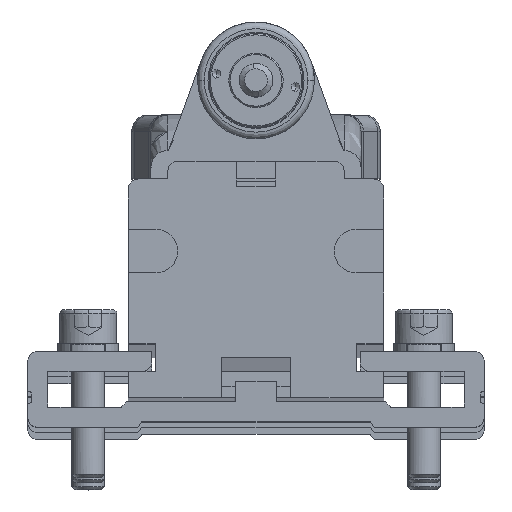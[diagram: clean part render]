
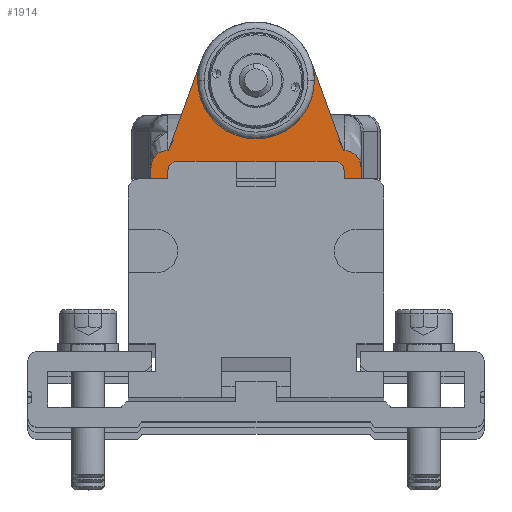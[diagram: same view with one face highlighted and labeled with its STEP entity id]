
A CAD part, top view. The second image highlights one B-rep face of the part: STEP entity #1914.
In plain terms, the highlighted planar face has unit normal (0, 0, 1).
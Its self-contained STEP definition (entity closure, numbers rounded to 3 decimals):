
#1914=ADVANCED_FACE('',(#4057),#4058,.T.);
#4057=FACE_OUTER_BOUND('',#6392,.T.);
#4058=PLANE('',#6393);
#6392=EDGE_LOOP('',(#14091,#14092,#14093,#14094,#14095,#14096,#14097,#14098,#14099,#14100,#14101,#14102,#14103,#14104,#14105,#14106,#14107,#14108,#14109,#14110,#14111,#14112));
#6393=AXIS2_PLACEMENT_3D('',#14113,#14114,#14115);
#14091=ORIENTED_EDGE('',*,*,#18079,.T.);
#14092=ORIENTED_EDGE('',*,*,#18080,.T.);
#14093=ORIENTED_EDGE('',*,*,#18081,.T.);
#14094=ORIENTED_EDGE('',*,*,#18082,.T.);
#14095=ORIENTED_EDGE('',*,*,#18083,.T.);
#14096=ORIENTED_EDGE('',*,*,#18084,.T.);
#14097=ORIENTED_EDGE('',*,*,#18085,.T.);
#14098=ORIENTED_EDGE('',*,*,#18086,.F.);
#14099=ORIENTED_EDGE('',*,*,#18087,.T.);
#14100=ORIENTED_EDGE('',*,*,#18088,.T.);
#14101=ORIENTED_EDGE('',*,*,#18089,.F.);
#14102=ORIENTED_EDGE('',*,*,#18090,.F.);
#14103=ORIENTED_EDGE('',*,*,#15878,.F.);
#14104=ORIENTED_EDGE('',*,*,#18091,.F.);
#14105=ORIENTED_EDGE('',*,*,#15891,.F.);
#14106=ORIENTED_EDGE('',*,*,#18092,.F.);
#14107=ORIENTED_EDGE('',*,*,#18093,.F.);
#14108=ORIENTED_EDGE('',*,*,#18094,.T.);
#14109=ORIENTED_EDGE('',*,*,#18095,.T.);
#14110=ORIENTED_EDGE('',*,*,#18096,.F.);
#14111=ORIENTED_EDGE('',*,*,#18097,.T.);
#14112=ORIENTED_EDGE('',*,*,#18098,.T.);
#14113=CARTESIAN_POINT('',(8.5,32.7,217.0));
#14114=DIRECTION('',(0.0,0.0,1.0));
#14115=DIRECTION('',(1.0,-0.0,0.0));
#15878=EDGE_CURVE('',#18757,#18760,#18761,.T.);
#15891=EDGE_CURVE('',#18784,#18786,#18787,.T.);
#18079=EDGE_CURVE('',#22052,#22053,#22054,.T.);
#18080=EDGE_CURVE('',#22053,#22055,#22056,.T.);
#18081=EDGE_CURVE('',#22055,#22057,#22058,.T.);
#18082=EDGE_CURVE('',#22057,#22059,#22060,.T.);
#18083=EDGE_CURVE('',#22059,#22061,#22062,.T.);
#18084=EDGE_CURVE('',#22061,#22063,#22064,.T.);
#18085=EDGE_CURVE('',#22063,#22065,#22066,.T.);
#18086=EDGE_CURVE('',#22067,#22065,#22068,.T.);
#18087=EDGE_CURVE('',#22067,#22069,#22070,.T.);
#18088=EDGE_CURVE('',#22069,#22071,#22072,.T.);
#18089=EDGE_CURVE('',#22073,#22071,#22074,.T.);
#18090=EDGE_CURVE('',#18760,#22073,#22075,.T.);
#18091=EDGE_CURVE('',#18786,#18757,#22076,.T.);
#18092=EDGE_CURVE('',#22077,#18784,#22078,.T.);
#18093=EDGE_CURVE('',#22079,#22077,#22080,.T.);
#18094=EDGE_CURVE('',#22079,#22081,#22082,.T.);
#18095=EDGE_CURVE('',#22081,#22083,#22084,.T.);
#18096=EDGE_CURVE('',#22085,#22083,#22086,.T.);
#18097=EDGE_CURVE('',#22085,#22087,#22088,.T.);
#18098=EDGE_CURVE('',#22087,#22052,#22089,.T.);
#18757=VERTEX_POINT('',#23002);
#18760=VERTEX_POINT('',#23006);
#18761=CIRCLE('',#23007,8.7);
#18784=VERTEX_POINT('',#23057);
#18786=VERTEX_POINT('',#23059);
#18787=CIRCLE('',#23060,8.7);
#22052=VERTEX_POINT('',#27741);
#22053=VERTEX_POINT('',#27742);
#22054=LINE('',#27743,#27744);
#22055=VERTEX_POINT('',#27745);
#22056=CIRCLE('',#27746,1.5);
#22057=VERTEX_POINT('',#27747);
#22058=LINE('',#27748,#27749);
#22059=VERTEX_POINT('',#27750);
#22060=CIRCLE('',#27751,1.5);
#22061=VERTEX_POINT('',#27752);
#22062=LINE('',#27753,#27754);
#22063=VERTEX_POINT('',#27755);
#22064=LINE('',#27756,#27757);
#22065=VERTEX_POINT('',#27758);
#22066=LINE('',#27759,#27760);
#22067=VERTEX_POINT('',#27761);
#22068=LINE('',#27762,#27763);
#22069=VERTEX_POINT('',#27764);
#22070=LINE('',#27765,#27766);
#22071=VERTEX_POINT('',#27767);
#22072=B_SPLINE_CURVE_WITH_KNOTS('',3,(#27768,#27769,#27770,#27771,#27772,#27773,#27774,#27775,#27776,#27777),.UNSPECIFIED.,.F.,.F.,(4,2,2,2,4),(1.12,1.22,1.315,1.406,1.492),.UNSPECIFIED.);
#22073=VERTEX_POINT('',#27778);
#22074=LINE('',#27779,#27780);
#22075=LINE('',#27781,#27782);
#22076=CIRCLE('',#27783,8.7);
#22077=VERTEX_POINT('',#27784);
#22078=LINE('',#27785,#27786);
#22079=VERTEX_POINT('',#27787);
#22080=LINE('',#27788,#27789);
#22081=VERTEX_POINT('',#27790);
#22082=B_SPLINE_CURVE_WITH_KNOTS('',3,(#27791,#27792,#27793,#27794,#27795,#27796,#27797,#27798,#27799,#27800),.UNSPECIFIED.,.F.,.F.,(4,2,2,2,4),(0.0,0.086,0.177,0.272,0.372),.UNSPECIFIED.);
#22083=VERTEX_POINT('',#27801);
#22084=LINE('',#27802,#27803);
#22085=VERTEX_POINT('',#27804);
#22086=LINE('',#27805,#27806);
#22087=VERTEX_POINT('',#27807);
#22088=LINE('',#27808,#27809);
#22089=LINE('',#27810,#27811);
#23002=CARTESIAN_POINT('',(27.7,47.3,217.0));
#23006=CARTESIAN_POINT('',(27.177,50.272,217.0));
#23007=AXIS2_PLACEMENT_3D('',#29525,#29526,#29527);
#23057=CARTESIAN_POINT('',(10.823,50.272,217.0));
#23059=CARTESIAN_POINT('',(10.3,47.3,217.0));
#23060=AXIS2_PLACEMENT_3D('',#29546,#29547,#29548);
#27741=CARTESIAN_POINT('',(5.85,32.7,217.0));
#27742=CARTESIAN_POINT('',(5.85,33.7,217.0));
#27743=CARTESIAN_POINT('',(5.85,32.7,217.0));
#27744=VECTOR('',#32306,1.0);
#27745=CARTESIAN_POINT('',(7.35,35.2,217.0));
#27746=AXIS2_PLACEMENT_3D('',#32307,#32308,#32309);
#27747=CARTESIAN_POINT('',(30.65,35.2,217.0));
#27748=CARTESIAN_POINT('',(7.35,35.2,217.0));
#27749=VECTOR('',#32310,23.3);
#27750=CARTESIAN_POINT('',(32.15,33.7,217.0));
#27751=AXIS2_PLACEMENT_3D('',#32311,#32312,#32313);
#27752=CARTESIAN_POINT('',(32.15,32.7,217.0));
#27753=CARTESIAN_POINT('',(32.15,33.7,217.0));
#27754=VECTOR('',#32314,1.0);
#27755=CARTESIAN_POINT('',(32.65,32.7,217.0));
#27756=CARTESIAN_POINT('',(32.15,32.7,217.0));
#27757=VECTOR('',#32315,0.5);
#27758=CARTESIAN_POINT('',(32.65,31.7,217.0));
#27759=CARTESIAN_POINT('',(32.65,32.7,217.0));
#27760=VECTOR('',#32316,1.0);
#27761=CARTESIAN_POINT('',(34.65,31.7,217.0));
#27762=CARTESIAN_POINT('',(34.65,31.7,217.0));
#27763=VECTOR('',#32317,2.0);
#27764=CARTESIAN_POINT('',(34.65,34.236,217.0));
#27765=CARTESIAN_POINT('',(34.65,31.7,217.0));
#27766=VECTOR('',#32318,2.536);
#27767=CARTESIAN_POINT('',(32.25,36.86,217.0));
#27768=CARTESIAN_POINT('',(34.65,34.236,217.0));
#27769=CARTESIAN_POINT('',(34.65,34.57,217.0));
#27770=CARTESIAN_POINT('',(34.577,34.965,217.0));
#27771=CARTESIAN_POINT('',(34.338,35.572,217.0));
#27772=CARTESIAN_POINT('',(34.136,35.895,217.0));
#27773=CARTESIAN_POINT('',(33.71,36.344,217.0));
#27774=CARTESIAN_POINT('',(33.416,36.554,217.0));
#27775=CARTESIAN_POINT('',(32.876,36.789,217.0));
#27776=CARTESIAN_POINT('',(32.538,36.86,217.0));
#27777=CARTESIAN_POINT('',(32.25,36.86,217.0));
#27778=CARTESIAN_POINT('',(32.052,36.86,217.0));
#27779=CARTESIAN_POINT('',(32.052,36.86,217.0));
#27780=VECTOR('',#32319,0.198);
#27781=CARTESIAN_POINT('',(27.177,50.272,217.0));
#27782=VECTOR('',#32320,14.271);
#27783=AXIS2_PLACEMENT_3D('',#32321,#32322,#32323);
#27784=CARTESIAN_POINT('',(5.948,36.86,217.0));
#27785=CARTESIAN_POINT('',(5.948,36.86,217.0));
#27786=VECTOR('',#32324,14.27);
#27787=CARTESIAN_POINT('',(5.75,36.86,217.0));
#27788=CARTESIAN_POINT('',(5.75,36.86,217.0));
#27789=VECTOR('',#32325,0.198);
#27790=CARTESIAN_POINT('',(3.35,34.236,217.0));
#27791=CARTESIAN_POINT('',(5.75,36.86,217.0));
#27792=CARTESIAN_POINT('',(5.462,36.86,217.0));
#27793=CARTESIAN_POINT('',(5.124,36.789,217.0));
#27794=CARTESIAN_POINT('',(4.584,36.554,217.0));
#27795=CARTESIAN_POINT('',(4.29,36.344,217.0));
#27796=CARTESIAN_POINT('',(3.864,35.895,217.0));
#27797=CARTESIAN_POINT('',(3.662,35.572,217.0));
#27798=CARTESIAN_POINT('',(3.423,34.965,217.0));
#27799=CARTESIAN_POINT('',(3.35,34.57,217.0));
#27800=CARTESIAN_POINT('',(3.35,34.236,217.0));
#27801=CARTESIAN_POINT('',(3.35,31.7,217.0));
#27802=CARTESIAN_POINT('',(3.35,34.236,217.0));
#27803=VECTOR('',#32326,2.536);
#27804=CARTESIAN_POINT('',(5.35,31.7,217.0));
#27805=CARTESIAN_POINT('',(5.35,31.7,217.0));
#27806=VECTOR('',#32327,2.0);
#27807=CARTESIAN_POINT('',(5.35,32.7,217.0));
#27808=CARTESIAN_POINT('',(5.35,31.7,217.0));
#27809=VECTOR('',#32328,1.0);
#27810=CARTESIAN_POINT('',(5.35,32.7,217.0));
#27811=VECTOR('',#32329,0.5);
#29525=CARTESIAN_POINT('',(19.,47.3,217.0));
#29526=DIRECTION('',(0.,0.,1.0));
#29527=DIRECTION('',(0.94,0.342,0.));
#29546=CARTESIAN_POINT('',(19.,47.3,217.0));
#29547=DIRECTION('',(0.,0.,1.0));
#29548=DIRECTION('',(0.94,0.342,0.));
#32306=DIRECTION('',(0.0,1.0,0.0));
#32307=CARTESIAN_POINT('',(7.35,33.7,217.0));
#32308=DIRECTION('',(0.0,0.0,-1.0));
#32309=DIRECTION('',(-1.0,0.0,0.0));
#32310=DIRECTION('',(1.0,0.0,0.0));
#32311=CARTESIAN_POINT('',(30.65,33.7,217.0));
#32312=DIRECTION('',(0.0,0.0,-1.0));
#32313=DIRECTION('',(1.0,0.0,0.0));
#32314=DIRECTION('',(0.0,-1.0,0.0));
#32315=DIRECTION('',(1.0,0.0,0.0));
#32316=DIRECTION('',(0.0,-1.0,0.0));
#32317=DIRECTION('',(-1.0,0.0,0.0));
#32318=DIRECTION('',(0.0,1.0,0.0));
#32319=DIRECTION('',(1.0,0.0,0.0));
#32320=DIRECTION('',(0.342,-0.94,0.));
#32321=CARTESIAN_POINT('',(19.,47.3,217.0));
#32322=DIRECTION('',(0.,0.,1.0));
#32323=DIRECTION('',(0.94,0.342,0.));
#32324=DIRECTION('',(0.342,0.94,0.0));
#32325=DIRECTION('',(1.0,0.0,0.0));
#32326=DIRECTION('',(0.0,-1.0,0.0));
#32327=DIRECTION('',(-1.0,0.0,0.0));
#32328=DIRECTION('',(0.0,1.0,0.0));
#32329=DIRECTION('',(1.0,0.0,0.0));
